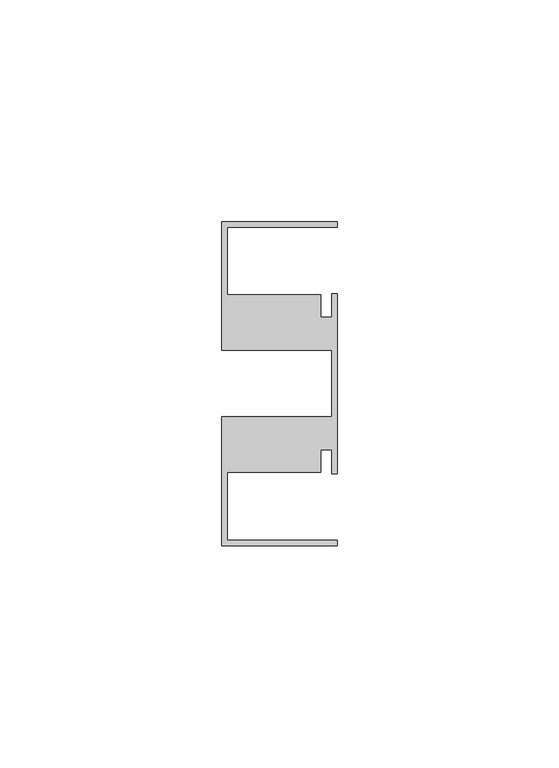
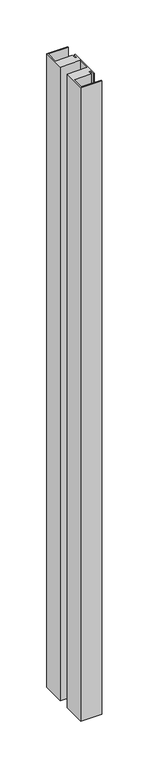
"""IFC4 building model written with IfcOpenShell, lengths in millimetres: member geometry, Прямоугольный импост : 9-AMG-1-Профиль 26Х73 Верх П."""

from ifc_helpers import new_model, si_unit, frame, origin, place, context, project, spatial, polyline, outline, extrude, source, transform, mapped, element, save


def member_3209a477(model_context):
    return source(origin(), model_context, "Body", "SweptSolid", [
        extrude(outline(polyline([(-26.0, 36.5), (0.0, 36.5), (0.0, 35.3), (-24.8, 35.3), (-24.8, 20.0), (-3.7, 20.0), (-3.7, 14.95), (-1.2, 14.95), (-1.2, 20.3007529), (0.0, 20.3007529), (0.0, -20.3007529), (-1.2, -20.3007529), (-1.2, -14.95), (-3.7, -14.95), (-3.7, -20.0), (-24.8, -20.0), (-24.8, -35.3), (0.0, -35.3), (0.0, -36.5), (-26.0, -36.5), (-26.0, -7.5116043), (-1.2, -7.5116043), (-1.2, 7.5116043), (-26.0, 7.5116043), (-26.0, 36.5)])), frame((0.0, 0.0, -828.0), z_axis=(0.0, 0.0, 1.0), x_axis=(1.0, 0.0, 0.0)), (0.0, 0.0, 1.0), 828.0),
    ])


if __name__ == "__main__":
    model = new_model("IFC4")
    model_context = context("Model", 3, world=origin())
    ifc_project = project(units=[si_unit("LENGTHUNIT", "METRE", prefix="MILLI")], contexts=[model_context])
    site = spatial("IfcSite", under=ifc_project)
    building = spatial("IfcBuilding", under=site)
    placement = place(None, origin())
    member_shape = member_3209a477(model_context)
    element("IfcMember", 1, ObjectType="Прямоугольный импост : 9-AMG-1-Профиль 26Х73 Верх П", at=placement, inside=building, context=model_context, shape_type="MappedRepresentation", body=[
        mapped(member_shape, transform((0.0, 0.0, 0.0), x_axis=(1.0, 0.0, 0.0), y_axis=(0.0, 1.0, 0.0), z_axis=(0.0, 0.0, 1.0))),
    ])
    save(model, "model.ifc")
